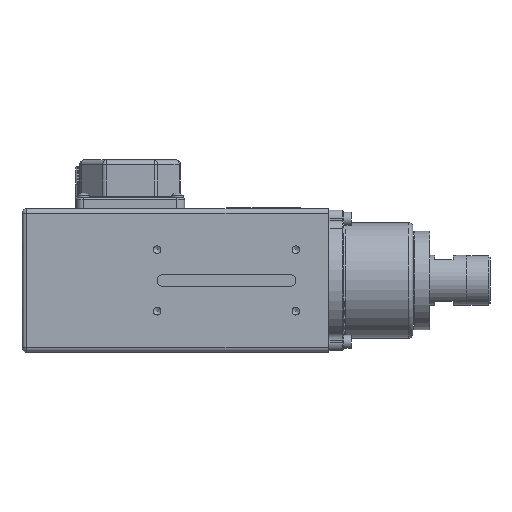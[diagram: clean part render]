
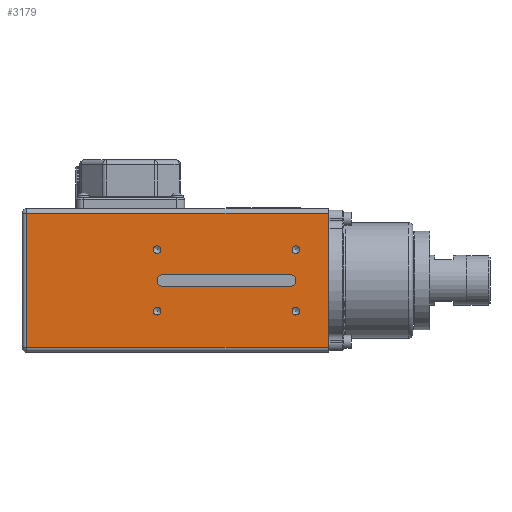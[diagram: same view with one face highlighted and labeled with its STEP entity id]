
A CAD part, left-side view. The second image highlights one B-rep face of the part: STEP entity #3179.
In plain terms, the highlighted planar face has unit normal (-1, 0, 0).
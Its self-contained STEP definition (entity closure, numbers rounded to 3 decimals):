
#3179 = ADVANCED_FACE( '', ( #7088, #7089, #7090, #7091, #7092, #7093 ), #7094, .T. );
#7088 = FACE_OUTER_BOUND( '', #11716, .T. );
#7089 = FACE_BOUND( '', #11717, .T. );
#7090 = FACE_BOUND( '', #11718, .T. );
#7091 = FACE_BOUND( '', #11719, .T. );
#7092 = FACE_BOUND( '', #11720, .T. );
#7093 = FACE_BOUND( '', #11721, .T. );
#7094 = PLANE( '', #11722 );
#11716 = EDGE_LOOP( '', ( #21772, #21773, #21774, #21775 ) );
#11717 = EDGE_LOOP( '', ( #21776, #21777, #21778, #21779 ) );
#11718 = EDGE_LOOP( '', ( #21780 ) );
#11719 = EDGE_LOOP( '', ( #21781 ) );
#11720 = EDGE_LOOP( '', ( #21782 ) );
#11721 = EDGE_LOOP( '', ( #21783 ) );
#11722 = AXIS2_PLACEMENT_3D( '', #21784, #21785, #21786 );
#21772 = ORIENTED_EDGE( '', *, *, #30972, .T. );
#21773 = ORIENTED_EDGE( '', *, *, #30973, .T. );
#21774 = ORIENTED_EDGE( '', *, *, #28509, .T. );
#21775 = ORIENTED_EDGE( '', *, *, #29600, .T. );
#21776 = ORIENTED_EDGE( '', *, *, #30868, .F. );
#21777 = ORIENTED_EDGE( '', *, *, #30974, .F. );
#21778 = ORIENTED_EDGE( '', *, *, #30975, .F. );
#21779 = ORIENTED_EDGE( '', *, *, #30382, .F. );
#21780 = ORIENTED_EDGE( '', *, *, #30976, .T. );
#21781 = ORIENTED_EDGE( '', *, *, #29547, .T. );
#21782 = ORIENTED_EDGE( '', *, *, #30270, .T. );
#21783 = ORIENTED_EDGE( '', *, *, #30234, .T. );
#21784 = CARTESIAN_POINT( '', ( -41.5, 195., -46.5 ) );
#21785 = DIRECTION( '', ( -1., 0., 0. ) );
#21786 = DIRECTION( '', ( 0., 0., 1. ) );
#28509 = EDGE_CURVE( '', #34583, #34584, #34585, .F. );
#29547 = EDGE_CURVE( '', #36256, #36256, #36257, .T. );
#29600 = EDGE_CURVE( '', #34584, #36333, #36335, .T. );
#30234 = EDGE_CURVE( '', #37274, #37274, #37275, .T. );
#30270 = EDGE_CURVE( '', #37326, #37326, #37327, .T. );
#30382 = EDGE_CURVE( '', #37481, #37482, #37483, .T. );
#30868 = EDGE_CURVE( '', #38120, #37481, #38121, .T. );
#30972 = EDGE_CURVE( '', #36333, #38246, #38247, .T. );
#30973 = EDGE_CURVE( '', #38246, #34583, #38248, .F. );
#30974 = EDGE_CURVE( '', #38249, #38120, #38250, .T. );
#30975 = EDGE_CURVE( '', #37482, #38249, #38251, .T. );
#30976 = EDGE_CURVE( '', #38252, #38252, #38253, .T. );
#34583 = VERTEX_POINT( '', #43576 );
#34584 = VERTEX_POINT( '', #43577 );
#34585 = LINE( '', #43578, #43579 );
#36256 = VERTEX_POINT( '', #46337 );
#36257 = CIRCLE( '', #46338, 2.459 );
#36333 = VERTEX_POINT( '', #46485 );
#36335 = LINE( '', #46487, #46488 );
#37274 = VERTEX_POINT( '', #47973 );
#37275 = CIRCLE( '', #47974, 2.459 );
#37326 = VERTEX_POINT( '', #48054 );
#37327 = CIRCLE( '', #48055, 2.459 );
#37481 = VERTEX_POINT( '', #48311 );
#37482 = VERTEX_POINT( '', #48312 );
#37483 = CIRCLE( '', #48313, 4. );
#38120 = VERTEX_POINT( '', #49371 );
#38121 = LINE( '', #49372, #49373 );
#38246 = VERTEX_POINT( '', #49579 );
#38247 = LINE( '', #49580, #49581 );
#38248 = LINE( '', #49582, #49583 );
#38249 = VERTEX_POINT( '', #49584 );
#38250 = CIRCLE( '', #49585, 4. );
#38251 = LINE( '', #49586, #49587 );
#38252 = VERTEX_POINT( '', #49588 );
#38253 = CIRCLE( '', #49589, 2.459 );
#43576 = CARTESIAN_POINT( '', ( -41.5, 195.7, -43.5 ) );
#43577 = CARTESIAN_POINT( '', ( -41.5, 0., -43.5 ) );
#43578 = CARTESIAN_POINT( '', ( -41.5, 195., -43.5 ) );
#43579 = VECTOR( '', #52748, 1000. );
#46337 = CARTESIAN_POINT( '', ( -41.5, 21., -17.542 ) );
#46338 = AXIS2_PLACEMENT_3D( '', #53542, #53543, #53544 );
#46485 = CARTESIAN_POINT( '', ( -41.5, 0., 43.5 ) );
#46487 = CARTESIAN_POINT( '', ( -41.5, 0., -46.5 ) );
#46488 = VECTOR( '', #53584, 1000. );
#47973 = CARTESIAN_POINT( '', ( -41.5, 111., 22.459 ) );
#47974 = AXIS2_PLACEMENT_3D( '', #54175, #54176, #54177 );
#48054 = CARTESIAN_POINT( '', ( -41.5, 21., 22.459 ) );
#48055 = AXIS2_PLACEMENT_3D( '', #54207, #54208, #54209 );
#48311 = CARTESIAN_POINT( '', ( -41.5, 25., -4. ) );
#48312 = CARTESIAN_POINT( '', ( -41.5, 25., 4. ) );
#48313 = AXIS2_PLACEMENT_3D( '', #54287, #54288, #54289 );
#49371 = CARTESIAN_POINT( '', ( -41.5, 107., -4. ) );
#49372 = CARTESIAN_POINT( '', ( -41.5, 25., -4. ) );
#49373 = VECTOR( '', #54652, 1000. );
#49579 = CARTESIAN_POINT( '', ( -41.5, 195.7, 43.5 ) );
#49580 = CARTESIAN_POINT( '', ( -41.5, 195., 43.5 ) );
#49581 = VECTOR( '', #54719, 1000. );
#49582 = CARTESIAN_POINT( '', ( -41.5, 195.7, -46.5 ) );
#49583 = VECTOR( '', #54720, 1000. );
#49584 = CARTESIAN_POINT( '', ( -41.5, 107., 4. ) );
#49585 = AXIS2_PLACEMENT_3D( '', #54721, #54722, #54723 );
#49586 = CARTESIAN_POINT( '', ( -41.5, 25., 4. ) );
#49587 = VECTOR( '', #54724, 1000. );
#49588 = CARTESIAN_POINT( '', ( -41.5, 111., -17.542 ) );
#49589 = AXIS2_PLACEMENT_3D( '', #54725, #54726, #54727 );
#52748 = DIRECTION( '', ( 0., 1., 0. ) );
#53542 = CARTESIAN_POINT( '', ( -41.5, 21., -20. ) );
#53543 = DIRECTION( '', ( 1., 0., 0. ) );
#53544 = DIRECTION( '', ( 0., 0., 1. ) );
#53584 = DIRECTION( '', ( 0., 0., 1. ) );
#54175 = CARTESIAN_POINT( '', ( -41.5, 111., 20. ) );
#54176 = DIRECTION( '', ( 1., 0., 0. ) );
#54177 = DIRECTION( '', ( 0., 0., 1. ) );
#54207 = CARTESIAN_POINT( '', ( -41.5, 21., 20. ) );
#54208 = DIRECTION( '', ( 1., 0., 0. ) );
#54209 = DIRECTION( '', ( 0., 0., 1. ) );
#54287 = CARTESIAN_POINT( '', ( -41.5, 25., 0. ) );
#54288 = DIRECTION( '', ( -1., 0., 0. ) );
#54289 = DIRECTION( '', ( 0., 1., 0. ) );
#54652 = DIRECTION( '', ( 0., -1., 0. ) );
#54719 = DIRECTION( '', ( 0., 1., 0. ) );
#54720 = DIRECTION( '', ( 0., 0., 1. ) );
#54721 = CARTESIAN_POINT( '', ( -41.5, 107., 0. ) );
#54722 = DIRECTION( '', ( -1., 0., 0. ) );
#54723 = DIRECTION( '', ( 0., -1., 0. ) );
#54724 = DIRECTION( '', ( 0., 1., 0. ) );
#54725 = CARTESIAN_POINT( '', ( -41.5, 111., -20. ) );
#54726 = DIRECTION( '', ( 1., 0., 0. ) );
#54727 = DIRECTION( '', ( 0., 0., 1. ) );
